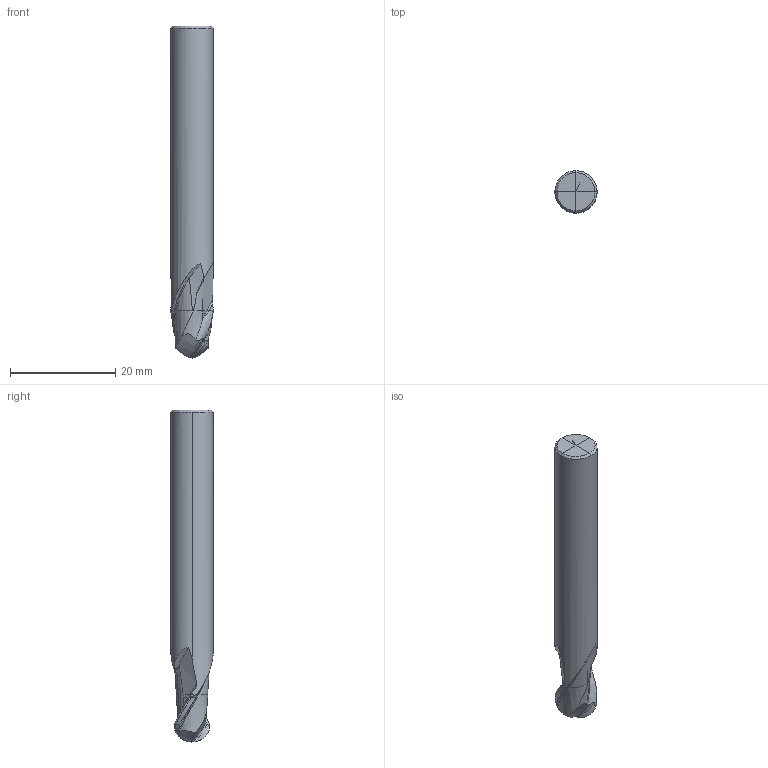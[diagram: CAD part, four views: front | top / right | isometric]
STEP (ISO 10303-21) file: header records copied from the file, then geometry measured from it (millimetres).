
FILE_DESCRIPTION(('CATIA V5 STEP','CAx-IF Rec.Pracs.--- Model Styling and Organization---1.2---2011-12-15'),'2;1');
FILE_NAME('N:\data\isr\design\special1\users\RUSLAN_S\1AA\5650742\EB-A2 08-09C08E63 D.stp','2020-06-16T07:36:23+00:00',('none'),('none'),'CATIA Version 5 Release 21 SP 5 (IN-10)','CATIA V5 STEP AP214','none');
FILE_SCHEMA(('AUTOMOTIVE_DESIGN { 1 0 10303 214 1 1 1 1 }'));
Length unit declared in the file: millimetre
Products named in the file (1): EB-A2 08-09C08E63
Bounding box: 8 x 8 x 63 mm (x, y, z)
Volume: 2823.3 mm3; surface area: 1641.2 mm2
Topology: 2 solids, 2 shells, 118 faces, 364 edges, 247 vertices
Faces by surface type: bspline 101, cylinder 8, sphere 6, plane 2, cone 1
Entity records: 6413 total; most frequent: CARTESIAN_POINT 4211, ORIENTED_EDGE 712, EDGE_CURVE 356, B_SPLINE_CURVE_WITH_KNOTS 273, VERTEX_POINT 242, ADVANCED_FACE 118, EDGE_LOOP 118, FACE_OUTER_BOUND 118
